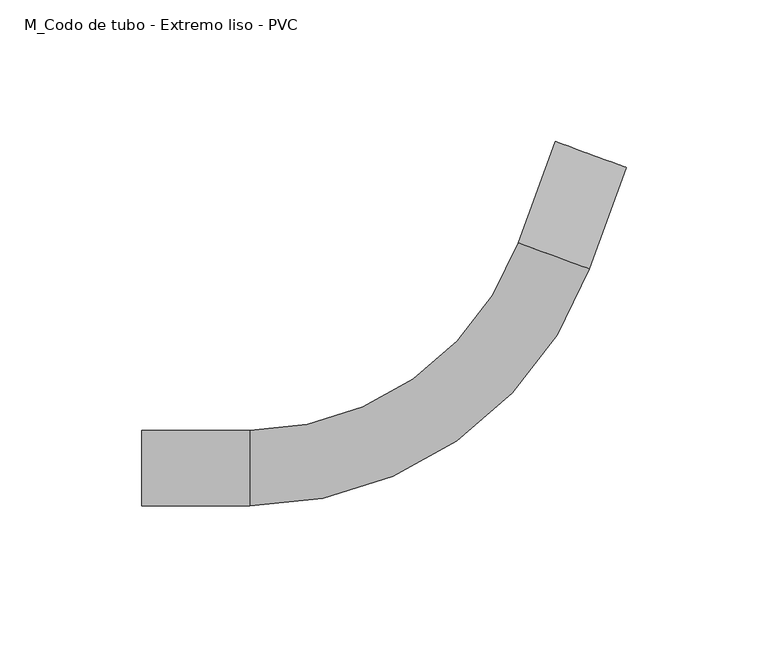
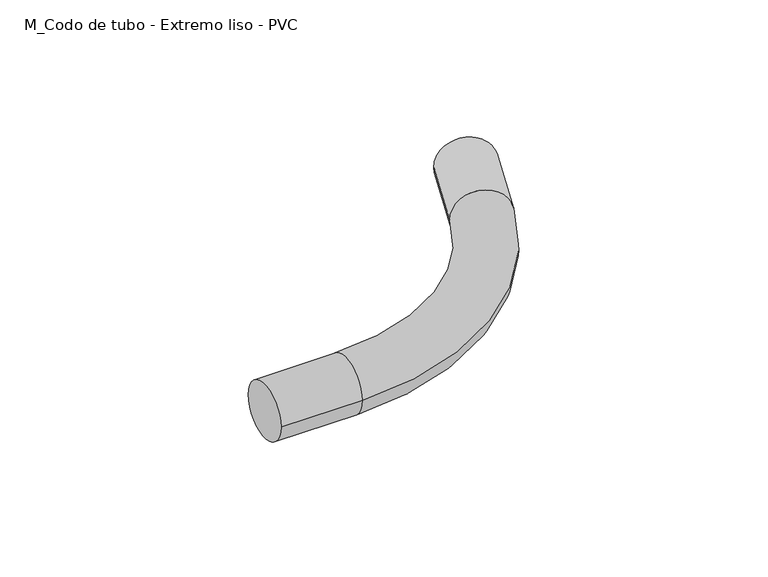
"""IFC4 building model written with IfcOpenShell, lengths in millimetres: cable carrier fitting geometry, M_Codo de tubo - Extremo liso - PVC : CODO ILUMINACION."""

from ifc_helpers import new_model, si_unit, point, frame, origin, place, context, project, spatial, circle_curve, ellipse_curve, trimmed, source, transform, mapped, element, save
from ifc_brep_helpers import plane_surface, cylinder_surface, revolved_surface, advanced_brep


def m_codo_de_tubo_extremo_liso_pvc_7c7b0098(model_context):
    return source(origin(), model_context, "Body", "AdvancedBrep", [
        advanced_brep(
        [(-117.9750642, -13.335, 0.0), (-117.9750642, 13.335, 0.0), (-79.8750642, -13.335, 0.0), (-79.8750642, 13.335, 0.0), (14.9364671, 79.5911431, 0.0), (39.9810226, 70.4227658, 0.0), (53.0787044, 106.2007022, 0.0), (28.034149, 115.3690795, 0.0)],
        [
            (0, 1, circle_curve(frame((-117.9750642, 0.0, 0.0), z_axis=(-1.0, 0.0, 0.0), x_axis=(0.0, 1.0, 0.0)), 13.335)),
            (1, 0, circle_curve(frame((-117.9750642, 0.0, 0.0), z_axis=(-1.0, 0.0, 0.0), x_axis=(0.0, 1.0, 0.0)), 13.335)),
            (0, 2),
            (2, 3, circle_curve(frame((-79.8750642, 0.0, 0.0), z_axis=(-1.0, 0.0, 0.0), x_axis=(0.0, 1.0, 0.0)), 13.335)),
            (3, 1),
            (3, 2, circle_curve(frame((-79.8750642, 0.0, 0.0), z_axis=(-1.0, 0.0, 0.0), x_axis=(0.0, 1.0, 0.0)), 13.335)),
            (4, 3, circle_curve(frame((-79.8750642, 114.3, 0.0), z_axis=(0.0, 0.0, -1.0), x_axis=(0.0, -1.0, 0.0)), 100.965)),
            (2, 5, circle_curve(frame((-79.8750642, 114.3, 0.0), z_axis=(0.0, 0.0, 1.0), x_axis=(0.0, -1.0, 0.0)), 127.635)),
            (5, 4, circle_curve(frame((27.4587448, 75.0069545, 0.0), z_axis=(-0.3437711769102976, -0.9390534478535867, 0.0), x_axis=(-0.9390534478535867, 0.3437711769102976, 0.0)), 13.335)),
            (4, 5, circle_curve(frame((27.4587448, 75.0069545, 0.0), z_axis=(-0.34377117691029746, -0.9390534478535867, 0.0), x_axis=(-0.9390534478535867, 0.34377117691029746, 0.0)), 13.335)),
            (6, 7, circle_curve(frame((40.5564267, 110.7848908, 0.0), z_axis=(0.3437711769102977, 0.9390534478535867, 0.0), x_axis=(-0.9390534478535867, 0.3437711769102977, 0.0)), 13.335)),
            (7, 6, circle_curve(frame((40.5564267, 110.7848908, 0.0), z_axis=(0.3437711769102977, 0.9390534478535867, 0.0), x_axis=(-0.9390534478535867, 0.3437711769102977, 0.0)), 13.335)),
            (5, 6),
            (7, 4),
        ],
        [
            plane_surface(frame((-117.9750642, 0.0, 0.0), z_axis=(-1.0, 0.0, 0.0), x_axis=(0.0, 0.0, 1.0))),
            cylinder_surface(frame((-117.9750642, 0.0, 0.0), z_axis=(-1.0, 0.0, 0.0), x_axis=(0.0, 1.0, 0.0)), 13.335),
            revolved_surface(trimmed(ellipse_curve(frame((-79.8750642, 0.0, 0.0), z_axis=(-1.0, 0.0, 0.0), x_axis=(0.0, 1.0, 0.0)), 13.335, 13.335), [point((-79.8750642, -13.335, 0.0))], [point((-79.8750642, 13.335, 0.0))], True, "CARTESIAN"), (-79.8750642, 114.3, 0.0), (0.0, 0.0, 1.0)),
            revolved_surface(trimmed(ellipse_curve(frame((-79.8750642, 0.0, 0.0), z_axis=(-1.0, 0.0, 0.0), x_axis=(0.0, 1.0, 0.0)), 13.335, 13.335), [point((-79.8750642, 13.335, 0.0))], [point((-79.8750642, -13.335, 0.0))], True, "CARTESIAN"), (-79.8750642, 114.3, 0.0), (0.0, 0.0, 1.0)),
            plane_surface(frame((40.5564267, 110.7848908, 0.0), z_axis=(0.34377117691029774, 0.9390534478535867, 0.0), x_axis=(0.0, 0.0, 1.0))),
            cylinder_surface(frame((27.4587448, 75.0069545, 0.0), z_axis=(-0.3437711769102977, -0.9390534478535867, 0.0), x_axis=(-0.9390534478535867, 0.3437711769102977, 0.0)), 13.335),
        ],
        [
            (0, [[1, 2]]),
            (1, [[-1, 3, 4, 5]]),
            (1, [[-2, -5, 6, -3]]),
            (2, [[7, -4, 8, 9]]),
            (3, [[-8, -6, -7, 10]]),
            (4, [[11, 12]]),
            (5, [[-9, 13, -12, 14]]),
            (5, [[-10, -14, -11, -13]]),
        ],
    ),
    ])


if __name__ == "__main__":
    model = new_model("IFC4")
    model_context = context("Model", 3, world=origin())
    ifc_project = project(units=[si_unit("LENGTHUNIT", "METRE", prefix="MILLI")], contexts=[model_context])
    site = spatial("IfcSite", under=ifc_project)
    building = spatial("IfcBuilding", under=site)
    placement = place(None, origin())
    m_codo_de_tubo_extremo_liso_pvc_shape = m_codo_de_tubo_extremo_liso_pvc_7c7b0098(model_context)
    element("IfcCableCarrierFitting", 1, ObjectType="M_Codo de tubo - Extremo liso - PVC : CODO ILUMINACION", at=placement, inside=building, context=model_context, shape_type="MappedRepresentation", body=[
        mapped(m_codo_de_tubo_extremo_liso_pvc_shape, transform((0.0, 0.0, 0.0), x_axis=(1.0, 0.0, 0.0), y_axis=(0.0, 1.0, 0.0), z_axis=(0.0, 0.0, 1.0))),
    ])
    save(model, "model.ifc")
